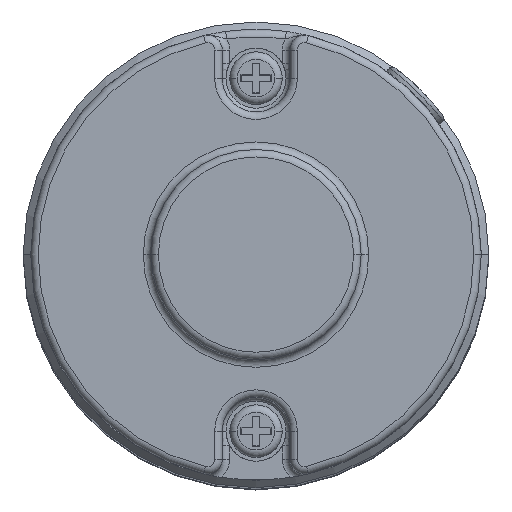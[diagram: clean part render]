
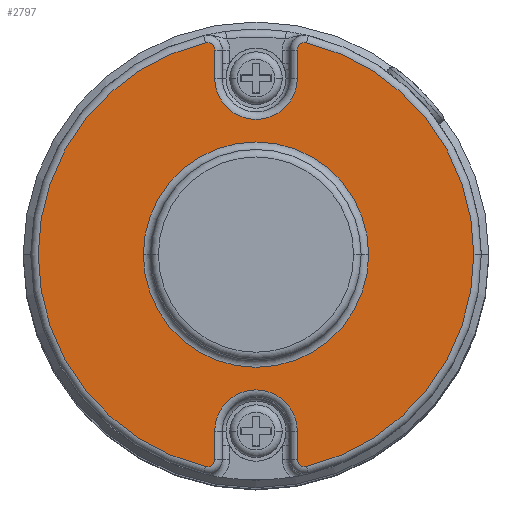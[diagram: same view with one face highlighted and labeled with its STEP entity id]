
A CAD part, top view. The second image highlights one B-rep face of the part: STEP entity #2797.
In plain terms, the highlighted planar face has unit normal (0, 0, 1).
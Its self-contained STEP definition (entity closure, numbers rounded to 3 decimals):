
#51 = CARTESIAN_POINT ( 'NONE',  ( 6.732, -28.208, 20.5 ) ) ;
#79 = CARTESIAN_POINT ( 'NONE',  ( -5.5, -23.5, 20.5 ) ) ;
#87 = CARTESIAN_POINT ( 'NONE',  ( 0., -23.5, 20.5 ) ) ;
#147 = DIRECTION ( 'NONE',  ( 0., 0., 1. ) ) ;
#193 = DIRECTION ( 'NONE',  ( 1., 0., 0. ) ) ;
#199 = CARTESIAN_POINT ( 'NONE',  ( -6.5, 27.235, 20.5 ) ) ;
#205 = EDGE_CURVE ( 'NONE', #6872, #3506, #3747, .T. ) ;
#218 = DIRECTION ( 'NONE',  ( 0., 0., 1. ) ) ;
#310 = AXIS2_PLACEMENT_3D ( 'NONE', #199, #3342, #3422 ) ;
#322 = DIRECTION ( 'NONE',  ( 1., 0., 0. ) ) ;
#478 = VERTEX_POINT ( 'NONE', #6173 ) ;
#525 = EDGE_CURVE ( 'NONE', #5518, #4725, #2017, .T. ) ;
#532 = CARTESIAN_POINT ( 'NONE',  ( -5.5, 27.235, 20.5 ) ) ;
#554 = CARTESIAN_POINT ( 'NONE',  ( -5.5, -23.5, 20.5 ) ) ;
#571 = EDGE_CURVE ( 'NONE', #6227, #478, #7384, .T. ) ;
#595 = CARTESIAN_POINT ( 'NONE',  ( -15., 0., 20.5 ) ) ;
#739 = DIRECTION ( 'NONE',  ( 1., 0., 0. ) ) ;
#867 = CIRCLE ( 'NONE', #310, 1. ) ;
#912 = DIRECTION ( 'NONE',  ( 1., 0., 0. ) ) ;
#947 = CARTESIAN_POINT ( 'NONE',  ( 0., 0., 20.5 ) ) ;
#968 = CARTESIAN_POINT ( 'NONE',  ( 6.5, -27.235, 20.5 ) ) ;
#1020 = CIRCLE ( 'NONE', #8010, 5.5 ) ;
#1084 = CARTESIAN_POINT ( 'NONE',  ( 5.5, -23.5, 20.5 ) ) ;
#1216 = DIRECTION ( 'NONE',  ( 0., 1., 0. ) ) ;
#1242 = CARTESIAN_POINT ( 'NONE',  ( 0., 0., 20.5 ) ) ;
#1354 = VERTEX_POINT ( 'NONE', #1825 ) ;
#1358 = EDGE_CURVE ( 'NONE', #3506, #4906, #867, .T. ) ;
#1416 = DIRECTION ( 'NONE',  ( 0., 0., 1. ) ) ;
#1484 = DIRECTION ( 'NONE',  ( 0., 0., 1. ) ) ;
#1563 = EDGE_CURVE ( 'NONE', #4088, #1354, #7456, .T. ) ;
#1692 = EDGE_CURVE ( 'NONE', #1354, #4206, #5578, .T. ) ;
#1825 = CARTESIAN_POINT ( 'NONE',  ( 5.5, 27.235, 20.5 ) ) ;
#1961 = DIRECTION ( 'NONE',  ( 1., 0., 0. ) ) ;
#2002 = CARTESIAN_POINT ( 'NONE',  ( 5.5, -27.235, 20.5 ) ) ;
#2017 = CIRCLE ( 'NONE', #4157, 15. ) ;
#2160 = EDGE_CURVE ( 'NONE', #4206, #6872, #1020, .T. ) ;
#2194 = ORIENTED_EDGE ( 'NONE', *, *, #2160, .T. ) ;
#2347 = CIRCLE ( 'NONE', #3143, 5.5 ) ;
#2386 = DIRECTION ( 'NONE',  ( 0., 1., 0. ) ) ;
#2392 = EDGE_LOOP ( 'NONE', ( #6629, #6309 ) ) ;
#2436 = DIRECTION ( 'NONE',  ( 0., -1., 0. ) ) ;
#2516 = ORIENTED_EDGE ( 'NONE', *, *, #2592, .T. ) ;
#2592 = EDGE_CURVE ( 'NONE', #478, #4088, #2643, .T. ) ;
#2643 = CIRCLE ( 'NONE', #7343, 29. ) ;
#2703 = EDGE_CURVE ( 'NONE', #4725, #5518, #6808, .T. ) ;
#2746 = ORIENTED_EDGE ( 'NONE', *, *, #5571, .T. ) ;
#2797 = ADVANCED_FACE ( 'NONE', ( #5656, #4480 ), #7059, .T. ) ;
#2817 = VECTOR ( 'NONE', #1216, 1000. ) ;
#2927 = VERTEX_POINT ( 'NONE', #2002 ) ;
#2991 = AXIS2_PLACEMENT_3D ( 'NONE', #3880, #5847, #5180 ) ;
#3017 = LINE ( 'NONE', #4955, #5819 ) ;
#3143 = AXIS2_PLACEMENT_3D ( 'NONE', #87, #6581, #1961 ) ;
#3342 = DIRECTION ( 'NONE',  ( 0., 0., 1. ) ) ;
#3413 = DIRECTION ( 'NONE',  ( 0., 0., -1. ) ) ;
#3422 = DIRECTION ( 'NONE',  ( 1., 0., 0. ) ) ;
#3460 = VECTOR ( 'NONE', #2386, 1000. ) ;
#3480 = ORIENTED_EDGE ( 'NONE', *, *, #4745, .T. ) ;
#3506 = VERTEX_POINT ( 'NONE', #7774 ) ;
#3548 = VERTEX_POINT ( 'NONE', #4826 ) ;
#3649 = CARTESIAN_POINT ( 'NONE',  ( 5.5, 23.5, 20.5 ) ) ;
#3696 = CARTESIAN_POINT ( 'NONE',  ( 0., 23.5, 20.5 ) ) ;
#3714 = ORIENTED_EDGE ( 'NONE', *, *, #571, .T. ) ;
#3747 = LINE ( 'NONE', #532, #2817 ) ;
#3815 = AXIS2_PLACEMENT_3D ( 'NONE', #6550, #1416, #739 ) ;
#3880 = CARTESIAN_POINT ( 'NONE',  ( -6.5, -27.235, 20.5 ) ) ;
#3938 = EDGE_LOOP ( 'NONE', ( #6665, #2746, #3714, #2516, #6751, #4100, #2194, #7388, #5304, #3976, #3480, #5205, #4021 ) ) ;
#3962 = CARTESIAN_POINT ( 'NONE',  ( 0., 0., 20.5 ) ) ;
#3976 = ORIENTED_EDGE ( 'NONE', *, *, #6304, .T. ) ;
#4021 = ORIENTED_EDGE ( 'NONE', *, *, #6908, .T. ) ;
#4065 = CIRCLE ( 'NONE', #2991, 1. ) ;
#4084 = DIRECTION ( 'NONE',  ( 0., 0., 1. ) ) ;
#4088 = VERTEX_POINT ( 'NONE', #4263 ) ;
#4100 = ORIENTED_EDGE ( 'NONE', *, *, #1692, .T. ) ;
#4157 = AXIS2_PLACEMENT_3D ( 'NONE', #5306, #3413, #6684 ) ;
#4206 = VERTEX_POINT ( 'NONE', #6867 ) ;
#4233 = AXIS2_PLACEMENT_3D ( 'NONE', #6128, #218, #912 ) ;
#4263 = CARTESIAN_POINT ( 'NONE',  ( 6.732, 28.208, 20.5 ) ) ;
#4316 = VERTEX_POINT ( 'NONE', #79 ) ;
#4480 = FACE_BOUND ( 'NONE', #2392, .T. ) ;
#4725 = VERTEX_POINT ( 'NONE', #7816 ) ;
#4745 = EDGE_CURVE ( 'NONE', #3548, #4988, #4065, .T. ) ;
#4826 = CARTESIAN_POINT ( 'NONE',  ( -6.732, -28.208, 20.5 ) ) ;
#4855 = DIRECTION ( 'NONE',  ( 0., -1., 0. ) ) ;
#4906 = VERTEX_POINT ( 'NONE', #7276 ) ;
#4955 = CARTESIAN_POINT ( 'NONE',  ( 5.5, -27.235, 20.5 ) ) ;
#4988 = VERTEX_POINT ( 'NONE', #8155 ) ;
#5028 = AXIS2_PLACEMENT_3D ( 'NONE', #968, #4084, #322 ) ;
#5068 = AXIS2_PLACEMENT_3D ( 'NONE', #6416, #1484, #5947 ) ;
#5112 = AXIS2_PLACEMENT_3D ( 'NONE', #3962, #147, #7317 ) ;
#5180 = DIRECTION ( 'NONE',  ( 1., 0., 0. ) ) ;
#5205 = ORIENTED_EDGE ( 'NONE', *, *, #7835, .T. ) ;
#5304 = ORIENTED_EDGE ( 'NONE', *, *, #1358, .T. ) ;
#5306 = CARTESIAN_POINT ( 'NONE',  ( 0., 0., 20.5 ) ) ;
#5315 = VECTOR ( 'NONE', #4855, 1000. ) ;
#5393 = DIRECTION ( 'NONE',  ( 0., 0., -1. ) ) ;
#5518 = VERTEX_POINT ( 'NONE', #595 ) ;
#5571 = EDGE_CURVE ( 'NONE', #2927, #6227, #7290, .T. ) ;
#5578 = LINE ( 'NONE', #3649, #5315 ) ;
#5656 = FACE_OUTER_BOUND ( 'NONE', #3938, .T. ) ;
#5819 = VECTOR ( 'NONE', #2436, 1000. ) ;
#5847 = DIRECTION ( 'NONE',  ( 0., 0., 1. ) ) ;
#5947 = DIRECTION ( 'NONE',  ( 1., 0., 0. ) ) ;
#6042 = EDGE_CURVE ( 'NONE', #6129, #2927, #3017, .T. ) ;
#6126 = DIRECTION ( 'NONE',  ( 0., 0., 1. ) ) ;
#6128 = CARTESIAN_POINT ( 'NONE',  ( 6.5, 27.235, 20.5 ) ) ;
#6129 = VERTEX_POINT ( 'NONE', #1084 ) ;
#6173 = CARTESIAN_POINT ( 'NONE',  ( 29., 0., 20.5 ) ) ;
#6206 = LINE ( 'NONE', #554, #3460 ) ;
#6227 = VERTEX_POINT ( 'NONE', #51 ) ;
#6304 = EDGE_CURVE ( 'NONE', #4906, #3548, #6753, .T. ) ;
#6309 = ORIENTED_EDGE ( 'NONE', *, *, #525, .T. ) ;
#6416 = CARTESIAN_POINT ( 'NONE',  ( 0., 0., 20.5 ) ) ;
#6550 = CARTESIAN_POINT ( 'NONE',  ( 0., 0., 20.5 ) ) ;
#6581 = DIRECTION ( 'NONE',  ( 0., 0., -1. ) ) ;
#6629 = ORIENTED_EDGE ( 'NONE', *, *, #2703, .T. ) ;
#6665 = ORIENTED_EDGE ( 'NONE', *, *, #6042, .T. ) ;
#6684 = DIRECTION ( 'NONE',  ( 1., 0., 0. ) ) ;
#6751 = ORIENTED_EDGE ( 'NONE', *, *, #1563, .T. ) ;
#6753 = CIRCLE ( 'NONE', #3815, 29. ) ;
#6808 = CIRCLE ( 'NONE', #7090, 15. ) ;
#6838 = DIRECTION ( 'NONE',  ( 1., 0., 0. ) ) ;
#6867 = CARTESIAN_POINT ( 'NONE',  ( 5.5, 23.5, 20.5 ) ) ;
#6872 = VERTEX_POINT ( 'NONE', #7060 ) ;
#6874 = DIRECTION ( 'NONE',  ( 0., 0., -1. ) ) ;
#6908 = EDGE_CURVE ( 'NONE', #4316, #6129, #2347, .T. ) ;
#7059 = PLANE ( 'NONE',  #5068 ) ;
#7060 = CARTESIAN_POINT ( 'NONE',  ( -5.5, 23.5, 20.5 ) ) ;
#7090 = AXIS2_PLACEMENT_3D ( 'NONE', #1242, #6874, #8226 ) ;
#7276 = CARTESIAN_POINT ( 'NONE',  ( -6.732, 28.208, 20.5 ) ) ;
#7290 = CIRCLE ( 'NONE', #5028, 1. ) ;
#7317 = DIRECTION ( 'NONE',  ( 1., 0., 0. ) ) ;
#7343 = AXIS2_PLACEMENT_3D ( 'NONE', #947, #6126, #6838 ) ;
#7384 = CIRCLE ( 'NONE', #5112, 29. ) ;
#7388 = ORIENTED_EDGE ( 'NONE', *, *, #205, .T. ) ;
#7456 = CIRCLE ( 'NONE', #4233, 1. ) ;
#7774 = CARTESIAN_POINT ( 'NONE',  ( -5.5, 27.235, 20.5 ) ) ;
#7816 = CARTESIAN_POINT ( 'NONE',  ( 15., 0., 20.5 ) ) ;
#7835 = EDGE_CURVE ( 'NONE', #4988, #4316, #6206, .T. ) ;
#8010 = AXIS2_PLACEMENT_3D ( 'NONE', #3696, #5393, #193 ) ;
#8155 = CARTESIAN_POINT ( 'NONE',  ( -5.5, -27.235, 20.5 ) ) ;
#8226 = DIRECTION ( 'NONE',  ( 1., 0., 0. ) ) ;
